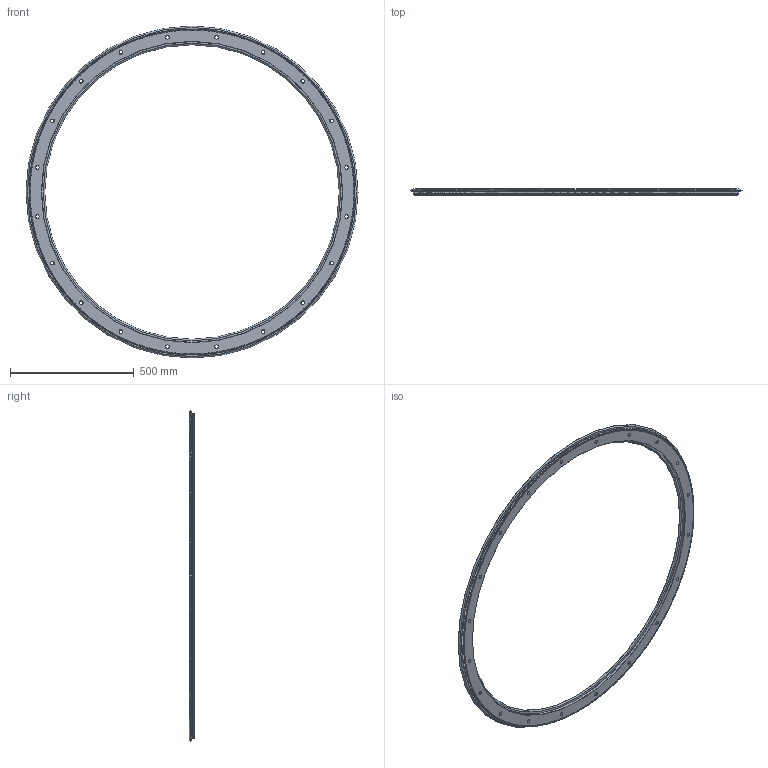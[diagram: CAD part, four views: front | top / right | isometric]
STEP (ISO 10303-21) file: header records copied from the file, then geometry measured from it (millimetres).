
FILE_DESCRIPTION( ( 'STEP AP203' ), '1' );
FILE_NAME( 'p:/temp/worker_35/temp/exporttempdir_1816_189_JbWYT/format_0/R76 1267 R360 P.stp', '2021-07-19T05:44:38', ( 'License CC BY-ND 4.0' ), ( 'CADENAS' ), ' ', 'PARTsolutions', ' ' );
FILE_SCHEMA( ( 'CONFIG_CONTROL_DESIGN' ) );
Length unit declared in the file: millimetre
Products named in the file (1): _R76 1267 R360 P
Bounding box: 1342.87 x 24 x 1342.87 mm (x, y, z)
Volume: 5253719.9 mm3; surface area: 876334.6 mm2
Topology: 1 solids, 1 shells, 5349 faces, 14197 edges, 8873 vertices
Faces by surface type: plane 3527, cylinder 919, cone 901, torus 2
Full cylindrical faces by diameter (mm): 14 x20, 20 x20, 1216.5 x1, 1223.5 x1, 1309.9 x1
Entity records: 165988 total; most frequent: CARTESIAN_POINT 33605, ORIENTED_EDGE 28252, DIRECTION 27566, EDGE_CURVE 14126, AXIS2_PLACEMENT_3D 9842, VERTEX_POINT 8873, LINE 7882, VECTOR 7882
